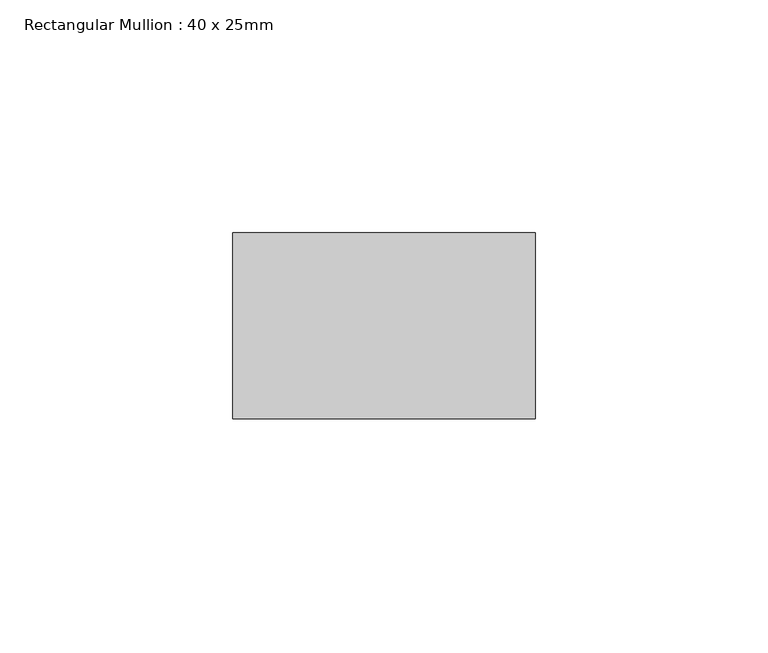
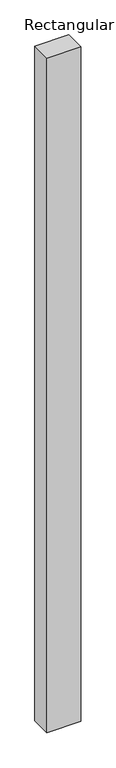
"""IFC4 building model written with IfcOpenShell, lengths in millimetres: member geometry, Rectangular Mullion : 40 x 25mm."""

from ifc_helpers import new_model, si_unit, frame, origin, place, context, project, spatial, polyline, outline, extrude, source, transform, mapped, element, save


def rectangular_mullion_40_x_25mm_0edd7a5a(model_context):
    return source(origin(), model_context, "Body", "SweptSolid", [
        extrude(outline(polyline([(40.0, -20.0), (40.0, -60.0), (-25.0, -60.0), (-25.0, -20.0), (40.0, -20.0)])), frame((0.0, 0.0, -1371.2822626), z_axis=(0.0, 0.0, 1.0), x_axis=(1.0, 0.0, 0.0)), (0.0, 0.0, 1.0), 1371.2822626),
    ])


if __name__ == "__main__":
    model = new_model("IFC4")
    model_context = context("Model", 3, world=origin())
    ifc_project = project(units=[si_unit("LENGTHUNIT", "METRE", prefix="MILLI")], contexts=[model_context])
    site = spatial("IfcSite", under=ifc_project)
    building = spatial("IfcBuilding", under=site)
    placement = place(None, origin())
    rectangular_mullion_40_x_25mm_shape = rectangular_mullion_40_x_25mm_0edd7a5a(model_context)
    element("IfcMember", 1, ObjectType="Rectangular Mullion : 40 x 25mm", at=placement, inside=building, context=model_context, shape_type="MappedRepresentation", body=[
        mapped(rectangular_mullion_40_x_25mm_shape, transform((0.0, 0.0, 0.0), x_axis=(1.0, 0.0, 0.0), y_axis=(0.0, 1.0, 0.0), z_axis=(0.0, 0.0, 1.0))),
    ])
    save(model, "model.ifc")
